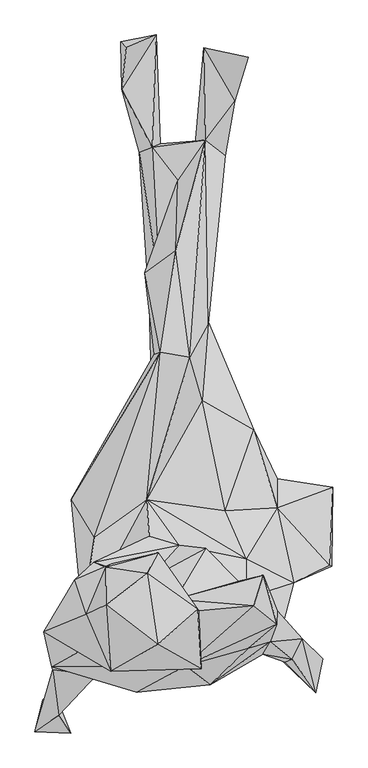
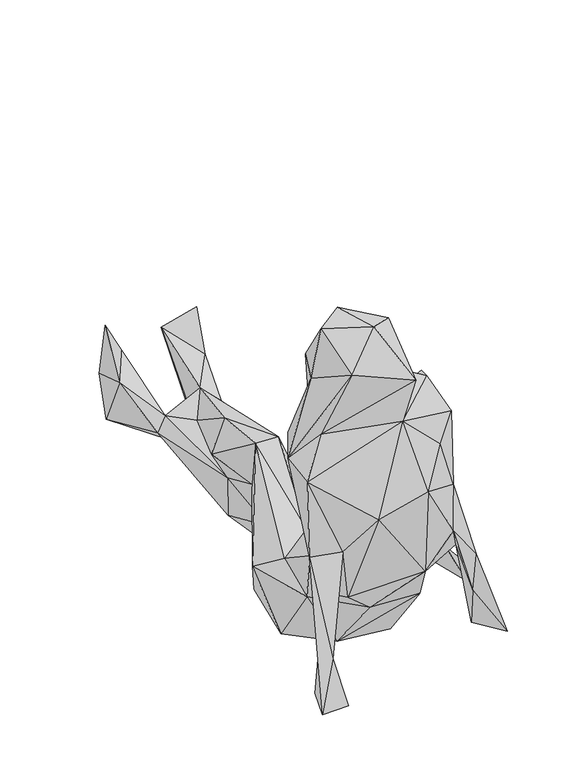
"""IFC4 building model written with IfcOpenShell, lengths in millimetres: geographic element geometry, TempEnscape AssetDefinition - Anita 002 Sitting : TempEnscape AssetDefinition - Anita 002 Sitting."""

import ifcopenshell
import ifcopenshell.guid

model = None  # the IFC model being written
_history = None  # IfcOwnerHistory: only IFC2X3 demands one
_inside = {}  # id of a spatial element -> (the spatial element, [elements in it])
_under = {}  # id of a project, library or spatial element -> (it, [spatial elements below it])
_declared = {}  # id of a project -> (the project, [libraries it declares])
_typed = {}  # id of a type object -> (the type object, [elements of that type])
_made_of = {}  # id of a material, layer set ... -> (it, [elements and type objects made of it])


def new_model(schema):
    """Start an empty IFC model of exactly this schema.

    Asked for "IFC4X3", IfcOpenShell would pick the latest addendum, in which some entities
    have other attributes; the version numbers below select the first issue.
    IFC2X3 requires an IfcOwnerHistory on every rooted entity: one is made here for all.
    """
    global model, _history
    if schema == "IFC4X3":
        model = ifcopenshell.file(schema_version=(4, 3, 0, 0))
    else:
        model = ifcopenshell.file(schema=schema)
    _inside.clear()
    _under.clear()
    _declared.clear()
    _typed.clear()
    _made_of.clear()
    _history = None
    if model.schema == "IFC2X3":
        org = make("IfcOrganization", Name="unknown")
        user = make(
            "IfcPersonAndOrganization",
            ThePerson=make("IfcPerson", FamilyName="unknown"),
            TheOrganization=org,
        )
        app = make(
            "IfcApplication",
            ApplicationDeveloper=org,
            Version="unknown",
            ApplicationFullName="unknown",
            ApplicationIdentifier="unknown",
        )
        _history = make(
            "IfcOwnerHistory",
            OwningUser=user,
            OwningApplication=app,
            ChangeAction="ADDED",
            CreationDate=0,
        )
    return model


def make(cls, **values):
    """One entity of the class cls with the attributes given. An attribute that is None is left unset."""
    return model.create_entity(
        cls, **{name: value for name, value in values.items() if value is not None}
    )


def rooted(cls, **values):
    """An entity with a GlobalId (a new one), such as an element, a storey or a relation."""
    return make(cls, GlobalId=ifcopenshell.guid.new(), OwnerHistory=_history, **values)


def si_unit(unit_type, name, prefix=None):
    """IfcSIUnit, for example si_unit("LENGTHUNIT", "METRE", prefix="MILLI")."""
    return make("IfcSIUnit", UnitType=unit_type, Prefix=prefix, Name=name)


def assignment(units):
    """IfcUnitAssignment: the units of a project."""
    return None if units is None else make("IfcUnitAssignment", Units=units)


def point(xyz):
    """IfcCartesianPoint."""
    return None if xyz is None else make("IfcCartesianPoint", Coordinates=xyz)


def direction(xyz):
    """IfcDirection."""
    return None if xyz is None else make("IfcDirection", DirectionRatios=xyz)


def frame(location, z_axis=None, x_axis=None):
    """IfcAxis2Placement3D, a coordinate frame: its origin and axes. An axis left out is left unset."""
    return make(
        "IfcAxis2Placement3D",
        Location=point(location),
        Axis=direction(z_axis),
        RefDirection=direction(x_axis),
    )


def origin():
    """The frame at (0, 0, 0) with its axes left unset."""
    return frame((0.0, 0.0, 0.0))


def place(relative_to, where):
    """IfcLocalPlacement: puts the frame where relative to a parent placement (None: the world)."""
    return make(
        "IfcLocalPlacement", PlacementRelTo=relative_to, RelativePlacement=where
    )


def context(
    kind, dimensions, precision=None, world=None, true_north=None, identifier=None
):
    """IfcGeometricRepresentationContext, for example the 3D "Model" context."""
    return make(
        "IfcGeometricRepresentationContext",
        ContextIdentifier=identifier,
        ContextType=kind,
        CoordinateSpaceDimension=dimensions,
        Precision=precision,
        WorldCoordinateSystem=world,
        TrueNorth=true_north,
    )


def project(units=None, contexts=None):
    """IfcProject with its units and contexts."""
    return rooted(
        "IfcProject",
        Name="project",
        RepresentationContexts=contexts,
        UnitsInContext=assignment(units),
    )


def spatial(cls, under=None, at=None, **own):
    """A site, building, storey or space (cls), placed at a placement, below another one or the project."""
    s = rooted(cls, ObjectPlacement=at, **own)
    if under is not None:
        _under.setdefault(under.id(), (under, []))[1].append(s)
    return s


def faces_of(points, faces, orient=None, outer=None):
    """IfcFace entities. A face is a list of loops; a loop is a list of indices into points, from 0.

    orient and outer hold one flag for each loop. By default every Orientation is true, the
    first loop of a face is its IfcFaceOuterBound and the others are IfcFaceBound.
    """
    made = []
    for i, loops in enumerate(faces):
        bounds = []
        for j, loop in enumerate(loops):
            is_outer = j == 0 if outer is None else outer[i][j]
            bounds.append(
                make(
                    "IfcFaceOuterBound" if is_outer else "IfcFaceBound",
                    Bound=make("IfcPolyLoop", Polygon=[points[k] for k in loop]),
                    Orientation=True if orient is None else orient[i][j],
                )
            )
        made.append(make("IfcFace", Bounds=bounds))
    return made


def faceted_brep(points, faces, orient=None, outer=None, voids=None):
    """IfcFacetedBrep: a solid bounded by flat faces; with voids (closed shells), ...WithVoids."""
    shared = [point(p) for p in points]
    hull = make("IfcClosedShell", CfsFaces=faces_of(shared, faces, orient, outer))
    if voids is None:
        return make("IfcFacetedBrep", Outer=hull)
    return make(
        "IfcFacetedBrepWithVoids",
        Outer=hull,
        Voids=[
            make(cls, CfsFaces=faces_of(shared, fs, o, b)) for cls, fs, o, b in voids
        ],
    )


def shape(context_of_items, identifier, shape_type, items):
    """IfcShapeRepresentation: the items that make up one representation, for example the "Body"."""
    return make(
        "IfcShapeRepresentation",
        ContextOfItems=context_of_items,
        RepresentationIdentifier=identifier,
        RepresentationType=shape_type,
        Items=items,
    )


def source(mapping_origin, context_of_items, identifier, shape_type, items):
    """IfcRepresentationMap: a shape defined once, which mapped items show again and again."""
    return make(
        "IfcRepresentationMap",
        MappingOrigin=mapping_origin,
        MappedRepresentation=shape(context_of_items, identifier, shape_type, items),
    )


def transform(
    local_origin,
    x_axis=None,
    y_axis=None,
    z_axis=None,
    scale=None,
    scale2=None,
    scale3=None,
    uniform=True,
):
    """IfcCartesianTransformationOperator3D, or its non-uniform kind. x_axis, y_axis, z_axis: its Axis1, 2, 3."""
    if uniform:
        return make(
            "IfcCartesianTransformationOperator3D",
            Axis1=direction(x_axis),
            Axis2=direction(y_axis),
            LocalOrigin=point(local_origin),
            Scale=scale,
            Axis3=direction(z_axis),
        )
    return make(
        "IfcCartesianTransformationOperator3DnonUniform",
        Axis1=direction(x_axis),
        Axis2=direction(y_axis),
        LocalOrigin=point(local_origin),
        Scale=scale,
        Axis3=direction(z_axis),
        Scale2=scale2,
        Scale3=scale3,
    )


def mapped(mapping_source, mapping_target):
    """IfcMappedItem: shows the shape of a source again, moved by a transform."""
    return make(
        "IfcMappedItem", MappingSource=mapping_source, MappingTarget=mapping_target
    )


def made_of(thing, what):
    """Note that an element or type object is made of a material, layer set ...; save() writes the relation."""
    if what is not None:
        _made_of.setdefault(what.id(), (what, []))[1].append(thing)
    return thing


def element(
    cls,
    number,
    at=None,
    inside=None,
    cuts=None,
    type_object=None,
    material=None,
    context=None,
    identifier="Body",
    shape_type=None,
    held_by="IfcProductDefinitionShape",
    body=None,
    shapes=None,
    **own,
):
    """One element of the class cls, such as IfcWall. Its Tag is "e" and its number.

    at: its placement. inside: the storey or other place that contains it. cuts: it is an
    opening in that element (IfcRelVoidsElement). A single representation is given by context,
    identifier, shape_type and body (its items); several are given by shapes. held_by: the class
    of the entity that holds the representations. save() writes the other relations.
    """
    e = rooted(cls, Tag="e%d" % number, ObjectPlacement=at, **own)
    if body is not None:
        shapes = [shape(context, identifier, shape_type, body)]
    if shapes is not None:
        e.Representation = make(held_by, Representations=shapes)
    if inside is not None:
        _inside.setdefault(inside.id(), (inside, []))[1].append(e)
    if cuts is not None:
        rooted(
            "IfcRelVoidsElement", RelatingBuildingElement=cuts, RelatedOpeningElement=e
        )
    if type_object is not None:
        _typed.setdefault(type_object.id(), (type_object, []))[1].append(e)
    return made_of(e, material)


def aggregate(whole, parts):
    """IfcRelAggregates: a whole, such as a stair, and the parts it consists of."""
    return rooted("IfcRelAggregates", RelatingObject=whole, RelatedObjects=parts)


def save(model, path):
    """Write the relations noted so far, then the file.

    IfcRelAggregates (storeys below a building ...), IfcRelContainedInSpatialStructure (elements
    in a storey), IfcRelDefinesByType, IfcRelAssociatesMaterial and IfcRelDeclares: one each for
    every whole, place, type object, material and project.
    """
    for whole, parts in _under.values():
        aggregate(whole, parts)
    for where, things in _inside.values():
        rooted(
            "IfcRelContainedInSpatialStructure",
            RelatedElements=things,
            RelatingStructure=where,
        )
    for kind, things in _typed.values():
        rooted("IfcRelDefinesByType", RelatedObjects=things, RelatingType=kind)
    for what, things in _made_of.values():
        rooted("IfcRelAssociatesMaterial", RelatedObjects=things, RelatingMaterial=what)
    for by, libraries in _declared.values():
        rooted("IfcRelDeclares", RelatingContext=by, RelatedDefinitions=libraries)
    model.write(path)


def geographic_element_b9c32f9a(model_context):
    return source(origin(), model_context, "Body", "Brep", [
        faceted_brep([(-73.8655925, 557.002306, 132.9326928), (-75.719513, 636.702776, 109.58983), (-68.1077912, 621.9859123, 1.5003612), (-45.0527668, 450.2432346, 63.9466718), (-9.5902998, 464.779973, 25.3610909), (-25.84837, 633.0233216, 6.1272308), (-66.6901544, 627.9091239, 230.8153957), (-16.1481481, 648.3475566, 138.5624409), (-22.7615237, 459.2624009, 92.1124369), (-10.324616, 224.511385, 75.8396313), (-27.8711375, 193.3018267, 7.582264), (20.1358907, 402.9999971, 101.0534093), (66.4850399, 470.5525041, 124.0721792), (72.9930326, 264.874965, -0.7932424), (50.0524603, 463.0280137, 43.8549705), (73.8542676, 335.064441, 61.7641173), (65.5252188, 118.9614311, 7.6037948), (65.3937683, 180.843398, 71.0745156), (71.3668838, 160.8661562, 154.1133821), (100.6794572, 444.8752403, 96.4469388), (64.1143769, 626.3974309, 181.5165281), (98.836869, 561.2359643, -15.5872125), (122.1479923, 599.82723, 93.7476456), (116.5023744, 536.2409353, 150.1188576), (40.8032537, 105.1114202, 232.4460894), (61.9114339, 32.4957408, 135.4245991), (16.782742, 285.2046192, 178.8342297), (-32.0492573, -135.1673603, 174.8374104), (-8.8911131, 113.4053245, 228.7586331), (-35.006918, 247.1482605, 129.0798038), (-159.6388966, -134.7435564, 125.7209778), (-18.9709589, 109.5875725, 132.61199), (-120.6623614, -199.0630329, 171.2882221), (-23.4709084, 40.0961377, 72.8604421), (-140.0299519, -106.9710031, 44.6142182), (-135.0880414, -209.0986967, -5.6898142), (-140.5908763, -324.6797621, 158.6122066), (-140.4390335, -336.3982141, 267.3770785), (-63.7676194, -314.5512044, 14.8268333), (-32.9535529, -394.4907784, 136.4127547), (-51.8905148, -232.4313521, -29.4122957), (15.138464, -75.9654269, 5.3305887), (113.3192107, -347.1727371, 91.3747177), (81.2370777, -282.0747197, -24.6573724), (90.8239782, -408.520937, 191.6065514), (-94.165802, -410.9936059, 193.5987473), (145.1010257, -242.6721007, -16.335126), (173.1240153, -279.9703479, 120.1354191), (187.3615682, -154.0816575, 19.8095273), (213.0932212, -219.1241384, 62.4327064), (197.3836273, -346.595943, 183.5789531), (215.6599313, -275.6199837, 128.3930838), (148.1232792, -17.4320675, 105.6213602), (188.123107, -100.5491391, 60.0144528), (188.0301833, -148.8949955, 118.9750209), (100.5094722, -153.9332122, 159.1640711), (281.8798125, -114.4320071, 19.3403829), (276.7520547, -246.3980764, 50.4581481), (136.1657232, -235.053584, 196.9496012), (22.6516034, -212.0948732, 302.691102), (136.633724, -300.6989062, 285.0901484), (279.8479795, -247.4202216, 3.5412607), (163.2402092, -395.8834708, 259.9432468), (201.4110386, -409.4331861, 105.8853865), (188.368991, -322.696656, 318.916291), (264.5905316, -403.8782418, 8.3743725), (230.4244339, -370.0792789, 164.4380093), (198.0374902, -409.032017, 27.0824283), (175.9728789, -375.3555119, 357.9596877), (253.3287704, -460.7854187, 17.1510335), (213.17029, -404.2272568, 188.60811), (187.57689, -345.9998369, 519.8819637), (139.2095089, -385.9192133, 478.7761569), (74.7698918, -448.0323792, 419.5119143), (33.5167572, -415.3643847, 589.353025), (164.6068543, -262.5802159, 578.2669187), (148.3351886, -314.4310713, 601.3468504), (-48.9158593, -460.2743387, 400.4559219), (-192.6139742, -417.3293412, 517.9510117), (-117.0565113, -431.6598177, 327.2169828), (-205.4214329, -358.6089909, 547.0561981), (-190.799728, -421.9879508, 333.2490623), (-146.3962793, -392.0305669, 606.508553), (60.2365583, -421.0224748, 685.7444644), (-92.8048268, -425.2311587, 753.8465261), (55.6867495, -323.1601417, 661.912024), (-13.6947632, -379.2321682, 820.2851415), (53.9540797, -320.4710484, 783.3018899), (-133.9287758, -329.0505409, 703.1629086), (-100.6647199, -312.6632869, 805.3064346), (-30.8299307, -259.3075335, 801.9533157), (-101.0998785, -249.4361997, 704.24968), (-13.0295716, -224.6462405, 660.2609754), (-91.1945477, -243.5662001, 606.5992713), (-153.6918432, -270.4503238, 539.8954749), (-50.1159206, -273.2720077, 568.6969757), (-121.6085851, -241.2771285, 403.7535787), (-160.5545282, -352.8478146, 378.5069287), (-163.383007, -404.0980637, 227.6662141), (-189.3775463, -455.953449, 112.4625057), (-220.6449062, -526.4285207, 14.1004501), (-180.1691353, -499.4106591, 124.0823716), (-27.6490282, -197.3349005, 286.0839963), (-29.1697886, -269.6956098, 456.3557506), (67.4267337, -217.088908, 392.4714029), (16.2977315, -303.829968, 550.7833362), (122.4426329, -273.1677592, 449.9281943), (-160.2644175, -529.1005969, 17.5057258), (-207.6617926, -472.8744328, 31.1132334), (139.0565187, 610.4917526, 215.6701386)], [[[0, 1, 2]], [[2, 3, 0]], [[4, 2, 5]], [[5, 2, 1]], [[2, 4, 3]], [[0, 6, 1]], [[7, 5, 1]], [[6, 7, 1]], [[8, 0, 3]], [[7, 6, 0]], [[8, 7, 0]], [[9, 8, 3]], [[9, 3, 10]], [[3, 4, 10]], [[11, 8, 9]], [[4, 7, 8]], [[11, 12, 8]], [[12, 4, 8]], [[4, 5, 7]], [[13, 10, 4]], [[12, 14, 4]], [[15, 13, 4]], [[4, 14, 15]], [[16, 10, 13]], [[16, 13, 17]], [[15, 17, 13]], [[17, 15, 18]], [[14, 19, 15]], [[15, 19, 18]], [[12, 20, 14]], [[20, 21, 14]], [[14, 21, 19]], [[18, 19, 12]], [[19, 22, 23]], [[12, 19, 23]], [[19, 21, 22]], [[12, 24, 18]], [[25, 17, 18]], [[25, 18, 24]], [[12, 26, 24]], [[27, 25, 24]], [[24, 28, 27]], [[26, 28, 24]], [[26, 12, 11]], [[12, 23, 20]], [[26, 11, 29]], [[28, 26, 29]], [[30, 28, 31]], [[32, 27, 28]], [[28, 29, 31]], [[32, 28, 30]], [[31, 29, 9]], [[29, 11, 9]], [[31, 9, 33]], [[33, 34, 31]], [[30, 31, 34]], [[35, 30, 34]], [[30, 35, 36]], [[36, 32, 30]], [[37, 32, 36]], [[27, 32, 37]], [[36, 35, 38]], [[36, 38, 39]], [[37, 36, 39]], [[35, 34, 40]], [[38, 35, 40]], [[34, 41, 40]], [[34, 33, 41]], [[38, 40, 41]], [[42, 39, 38]], [[43, 38, 41]], [[42, 38, 43]], [[44, 45, 39]], [[44, 39, 42]], [[45, 37, 39]], [[43, 46, 42]], [[42, 46, 47]], [[42, 47, 44]], [[48, 43, 16]], [[46, 43, 48]], [[43, 41, 16]], [[48, 47, 46]], [[47, 48, 49]], [[44, 47, 50]], [[47, 49, 51]], [[50, 47, 51]], [[48, 16, 17]], [[52, 48, 17]], [[49, 48, 53]], [[48, 52, 53]], [[41, 10, 16]], [[33, 9, 10]], [[33, 10, 41]], [[52, 17, 25]], [[54, 52, 55]], [[52, 25, 55]], [[54, 53, 52]], [[54, 56, 53]], [[53, 56, 49]], [[57, 56, 54]], [[54, 55, 58]], [[51, 54, 58]], [[57, 54, 51]], [[55, 25, 27]], [[58, 55, 27]], [[59, 58, 27]], [[58, 59, 60]], [[60, 51, 58]], [[51, 49, 61]], [[51, 61, 57]], [[50, 51, 60]], [[49, 56, 61]], [[61, 56, 57]], [[62, 50, 63]], [[64, 50, 60]], [[65, 50, 66]], [[50, 64, 66]], [[65, 67, 50]], [[67, 63, 50]], [[62, 44, 50]], [[66, 64, 68]], [[66, 69, 65]], [[66, 70, 69]], [[66, 68, 70]], [[65, 69, 67]], [[67, 69, 63]], [[70, 63, 69]], [[70, 62, 63]], [[70, 68, 62]], [[68, 64, 71]], [[72, 68, 71]], [[73, 62, 68]], [[68, 72, 73]], [[74, 72, 71]], [[64, 75, 71]], [[76, 71, 75]], [[71, 76, 74]], [[73, 72, 74]], [[77, 44, 73]], [[77, 73, 74]], [[73, 44, 62]], [[74, 78, 77]], [[79, 45, 77]], [[45, 44, 77]], [[78, 79, 77]], [[78, 80, 81]], [[78, 81, 79]], [[78, 82, 80]], [[82, 78, 74]], [[83, 82, 74]], [[84, 80, 82]], [[82, 83, 84]], [[74, 76, 85]], [[83, 74, 85]], [[83, 86, 84]], [[86, 83, 87]], [[85, 87, 83]], [[84, 88, 80]], [[84, 89, 88]], [[86, 89, 84]], [[90, 89, 86]], [[87, 90, 86]], [[87, 85, 90]], [[89, 90, 91]], [[92, 91, 90]], [[90, 85, 92]], [[88, 89, 91]], [[88, 93, 94]], [[88, 94, 80]], [[88, 91, 93]], [[92, 93, 91]], [[95, 93, 92]], [[95, 92, 85]], [[94, 93, 95]], [[80, 94, 96]], [[95, 96, 94]], [[97, 80, 96]], [[97, 81, 80]], [[97, 96, 37]], [[98, 97, 37]], [[81, 97, 98]], [[99, 100, 81]], [[99, 81, 98]], [[100, 101, 81]], [[81, 101, 79]], [[45, 98, 37]], [[79, 98, 45]], [[79, 99, 98]], [[96, 102, 37]], [[102, 27, 37]], [[96, 59, 102]], [[59, 27, 102]], [[103, 59, 96]], [[60, 59, 104]], [[104, 59, 103]], [[95, 103, 96]], [[103, 95, 105]], [[104, 103, 105]], [[104, 106, 60]], [[106, 104, 105]], [[106, 64, 60]], [[75, 106, 105]], [[64, 106, 75]], [[105, 95, 85]], [[85, 76, 105]], [[76, 75, 105]], [[99, 79, 101]], [[101, 100, 107]], [[107, 99, 101]], [[108, 99, 107]], [[99, 108, 100]], [[107, 100, 108]], [[22, 109, 23]], [[23, 109, 20]], [[109, 22, 20]], [[22, 21, 20]]]),
    ])


if __name__ == "__main__":
    model = new_model("IFC4")
    model_context = context("Model", 3, world=origin())
    ifc_project = project(units=[si_unit("LENGTHUNIT", "METRE", prefix="MILLI")], contexts=[model_context])
    site = spatial("IfcSite", under=ifc_project)
    building = spatial("IfcBuilding", under=site)
    placement = place(None, origin())
    geographic_element_shape = geographic_element_b9c32f9a(model_context)
    element("IfcGeographicElement", 1, ObjectType="TempEnscape AssetDefinition - Anita 002 Sitting : TempEnscape AssetDefinition - Anita 002 Sitting", at=placement, inside=building, context=model_context, shape_type="MappedRepresentation", body=[
        mapped(geographic_element_shape, transform((0.0, 0.0, 0.0), x_axis=(1.0, 0.0, 0.0), y_axis=(0.0, 1.0, 0.0), z_axis=(0.0, 0.0, 1.0))),
    ])
    save(model, "model.ifc")
